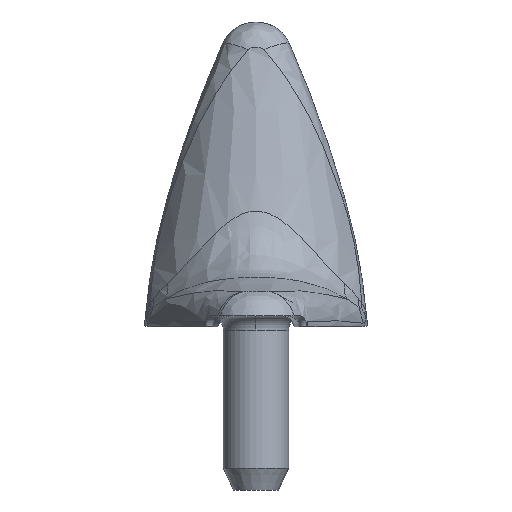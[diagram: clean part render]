
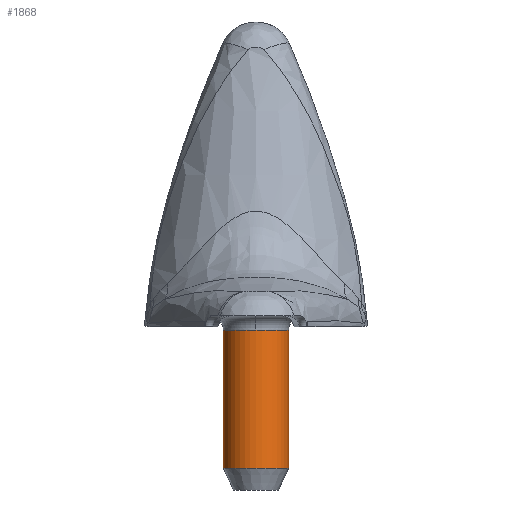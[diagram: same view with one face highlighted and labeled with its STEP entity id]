
A CAD part, front view. The second image highlights one B-rep face of the part: STEP entity #1868.
In plain terms, the highlighted cylindrical face has radius 1.505 mm (diameter 3.01 mm), a partial arc.
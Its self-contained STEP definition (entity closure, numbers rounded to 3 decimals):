
#67 = DIRECTION ( 'NONE',  ( 0., 1., 0. ) ) ;
#417 = DIRECTION ( 'NONE',  ( -1., 0., 0. ) ) ;
#613 = VERTEX_POINT ( 'NONE', #1584 ) ;
#693 = AXIS2_PLACEMENT_3D ( 'NONE', #3388, #4030, #417 ) ;
#1093 = CARTESIAN_POINT ( 'NONE',  ( 1.505, -2.5, -6.5 ) ) ;
#1117 = CARTESIAN_POINT ( 'NONE',  ( 0., -2.5, -7.5 ) ) ;
#1153 = ORIENTED_EDGE ( 'NONE', *, *, #2264, .T. ) ;
#1220 = EDGE_LOOP ( 'NONE', ( #3910, #1153, #3595, #2238, #2668 ) ) ;
#1265 = CARTESIAN_POINT ( 'NONE',  ( 0., -2.5, -0.15 ) ) ;
#1584 = CARTESIAN_POINT ( 'NONE',  ( 0., -4.005, -0.15 ) ) ;
#1804 = CIRCLE ( 'NONE', #4223, 1.505 ) ;
#1832 = CIRCLE ( 'NONE', #4178, 1.505 ) ;
#1833 = VERTEX_POINT ( 'NONE', #1093 ) ;
#1868 = ADVANCED_FACE ( 'NONE', ( #4089 ), #3788, .T. ) ;
#1945 = DIRECTION ( 'NONE',  ( 0., 1., 0. ) ) ;
#2120 = DIRECTION ( 'NONE',  ( 0., 0., -1. ) ) ;
#2230 = VERTEX_POINT ( 'NONE', #2659 ) ;
#2238 = ORIENTED_EDGE ( 'NONE', *, *, #2805, .T. ) ;
#2259 = EDGE_CURVE ( 'NONE', #1833, #4176, #2794, .T. ) ;
#2264 = EDGE_CURVE ( 'NONE', #3359, #1833, #3881, .T. ) ;
#2520 = DIRECTION ( 'NONE',  ( 0., 0., 1. ) ) ;
#2659 = CARTESIAN_POINT ( 'NONE',  ( -1.505, -2.5, -0.15 ) ) ;
#2668 = ORIENTED_EDGE ( 'NONE', *, *, #3862, .T. ) ;
#2714 = CARTESIAN_POINT ( 'NONE',  ( 1.505, -2.5, -7.5 ) ) ;
#2794 = LINE ( 'NONE', #2714, #3739 ) ;
#2805 = EDGE_CURVE ( 'NONE', #4176, #613, #1804, .T. ) ;
#3000 = DIRECTION ( 'NONE',  ( 0., 0., 1. ) ) ;
#3359 = VERTEX_POINT ( 'NONE', #3362 ) ;
#3362 = CARTESIAN_POINT ( 'NONE',  ( -1.505, -2.5, -6.5 ) ) ;
#3388 = CARTESIAN_POINT ( 'NONE',  ( 0., -2.5, -6.5 ) ) ;
#3593 = AXIS2_PLACEMENT_3D ( 'NONE', #1117, #2520, #4130 ) ;
#3595 = ORIENTED_EDGE ( 'NONE', *, *, #2259, .T. ) ;
#3608 = CARTESIAN_POINT ( 'NONE',  ( -1.505, -2.5, -7.5 ) ) ;
#3623 = VECTOR ( 'NONE', #3000, 1000. ) ;
#3651 = LINE ( 'NONE', #3608, #3623 ) ;
#3692 = CARTESIAN_POINT ( 'NONE',  ( 0., -2.5, -0.15 ) ) ;
#3739 = VECTOR ( 'NONE', #3793, 1000. ) ;
#3757 = EDGE_CURVE ( 'NONE', #3359, #2230, #3651, .T. ) ;
#3788 = CYLINDRICAL_SURFACE ( 'NONE', #3593, 1.505 ) ;
#3793 = DIRECTION ( 'NONE',  ( 0., 0., 1. ) ) ;
#3862 = EDGE_CURVE ( 'NONE', #613, #2230, #1832, .T. ) ;
#3881 = CIRCLE ( 'NONE', #693, 1.505 ) ;
#3910 = ORIENTED_EDGE ( 'NONE', *, *, #3757, .F. ) ;
#3911 = DIRECTION ( 'NONE',  ( 0., 0., -1. ) ) ;
#4013 = CARTESIAN_POINT ( 'NONE',  ( 1.505, -2.5, -0.15 ) ) ;
#4030 = DIRECTION ( 'NONE',  ( 0., 0., 1. ) ) ;
#4089 = FACE_OUTER_BOUND ( 'NONE', #1220, .T. ) ;
#4130 = DIRECTION ( 'NONE',  ( 1., 0., 0. ) ) ;
#4176 = VERTEX_POINT ( 'NONE', #4013 ) ;
#4178 = AXIS2_PLACEMENT_3D ( 'NONE', #3692, #2120, #67 ) ;
#4223 = AXIS2_PLACEMENT_3D ( 'NONE', #1265, #3911, #1945 ) ;
